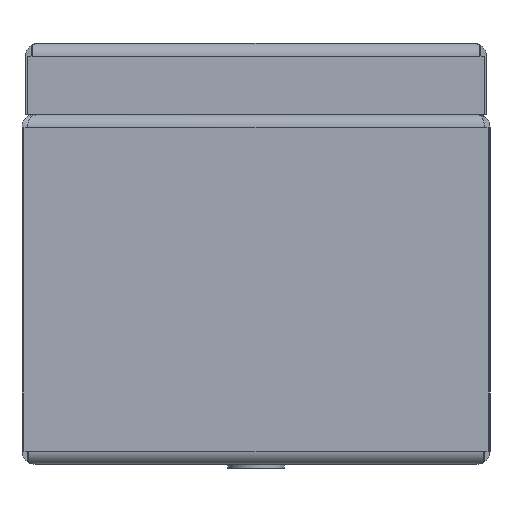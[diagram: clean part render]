
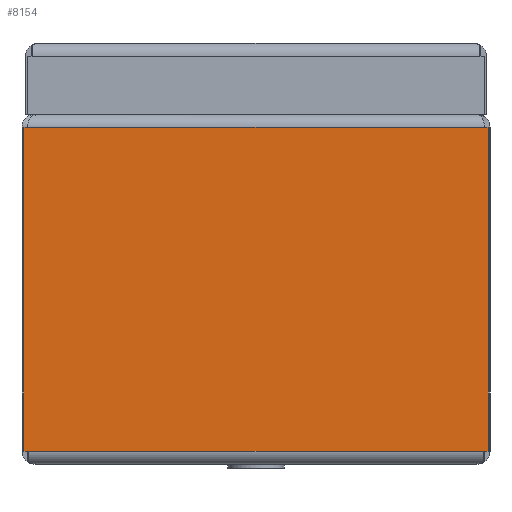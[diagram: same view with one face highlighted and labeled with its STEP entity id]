
A CAD part, left-side view. The second image highlights one B-rep face of the part: STEP entity #8154.
In plain terms, the highlighted planar face has unit normal (-1, 0, 0).
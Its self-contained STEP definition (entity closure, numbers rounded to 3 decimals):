
#192=B_SPLINE_CURVE_WITH_KNOTS('',3,(#13816,#13817,#13818,#13819),
 .UNSPECIFIED.,.F.,.F.,(4,4),(0.002,0.003),
 .UNSPECIFIED.);
#591=LINE('',#13779,#1373);
#597=LINE('',#13790,#1379);
#625=LINE('',#13933,#1407);
#626=LINE('',#13959,#1408);
#630=LINE('',#13977,#1412);
#632=LINE('',#13980,#1414);
#634=LINE('',#13984,#1416);
#1373=VECTOR('',#11257,1000.);
#1379=VECTOR('',#11273,1000.);
#1407=VECTOR('',#11339,1000.);
#1408=VECTOR('',#11342,1000.);
#1412=VECTOR('',#11350,1000.);
#1414=VECTOR('',#11354,1000.);
#1416=VECTOR('',#11360,1000.);
#2504=ORIENTED_EDGE('',*,*,#4616,.F.);
#2505=ORIENTED_EDGE('',*,*,#4565,.F.);
#2506=ORIENTED_EDGE('',*,*,#4559,.F.);
#2507=ORIENTED_EDGE('',*,*,#4614,.F.);
#2508=ORIENTED_EDGE('',*,*,#4612,.F.);
#2509=ORIENTED_EDGE('',*,*,#4606,.T.);
#2510=ORIENTED_EDGE('',*,*,#4604,.T.);
#2511=ORIENTED_EDGE('',*,*,#4571,.F.);
#4559=EDGE_CURVE('',#5663,#5660,#591,.T.);
#4565=EDGE_CURVE('',#5660,#5664,#597,.T.);
#4571=EDGE_CURVE('',#5669,#5666,#192,.F.);
#4604=EDGE_CURVE('',#5686,#5666,#625,.T.);
#4606=EDGE_CURVE('',#5688,#5686,#626,.T.);
#4612=EDGE_CURVE('',#5688,#5690,#630,.T.);
#4614=EDGE_CURVE('',#5690,#5663,#632,.T.);
#4616=EDGE_CURVE('',#5664,#5669,#634,.T.);
#5660=VERTEX_POINT('',#13772);
#5663=VERTEX_POINT('',#13778);
#5664=VERTEX_POINT('',#13791);
#5666=VERTEX_POINT('',#13807);
#5669=VERTEX_POINT('',#13815);
#5686=VERTEX_POINT('',#13924);
#5688=VERTEX_POINT('',#13960);
#5690=VERTEX_POINT('',#13974);
#6639=EDGE_LOOP('',(#2504,#2505,#2506,#2507,#2508,#2509,#2510,#2511));
#7239=FACE_BOUND('',#6639,.T.);
#7795=PLANE('',#10221);
#8154=ADVANCED_FACE('',(#7239),#7795,.T.);
#10221=AXIS2_PLACEMENT_3D('',#13985,#11361,#11362);
#11257=DIRECTION('',(0.,1.,0.));
#11273=DIRECTION('',(0.,1.,0.));
#11339=DIRECTION('',(0.,1.,0.));
#11342=DIRECTION('',(0.,1.,0.));
#11350=DIRECTION('',(0.,0.,-1.));
#11354=DIRECTION('',(0.,1.,0.));
#11360=DIRECTION('',(0.,0.,1.));
#11361=DIRECTION('',(-1.,0.,0.));
#11362=DIRECTION('',(0.,0.,1.));
#13772=CARTESIAN_POINT('',(-150.,48.599,1.6));
#13778=CARTESIAN_POINT('',(-150.,-48.599,1.6));
#13779=CARTESIAN_POINT('',(-150.,-334.6,1.6));
#13790=CARTESIAN_POINT('',(-150.,-334.6,1.6));
#13791=CARTESIAN_POINT('',(-150.,49.604,1.6));
#13807=CARTESIAN_POINT('',(-150.,48.797,70.8));
#13815=CARTESIAN_POINT('',(-150.,49.604,70.8));
#13816=CARTESIAN_POINT('',(-150.,48.797,70.8));
#13817=CARTESIAN_POINT('',(-150.,49.066,70.8));
#13818=CARTESIAN_POINT('',(-150.,49.335,70.8));
#13819=CARTESIAN_POINT('',(-150.,49.604,70.8));
#13924=CARTESIAN_POINT('',(-150.,-48.797,70.8));
#13933=CARTESIAN_POINT('',(-150.,-334.6,70.8));
#13959=CARTESIAN_POINT('',(-150.,-334.6,70.8));
#13960=CARTESIAN_POINT('',(-150.,-49.604,70.8));
#13974=CARTESIAN_POINT('',(-150.,-49.604,1.6));
#13977=CARTESIAN_POINT('',(-150.,-49.604,-1.2));
#13980=CARTESIAN_POINT('',(-150.,-334.6,1.6));
#13984=CARTESIAN_POINT('',(-150.,49.604,-1.2));
#13985=CARTESIAN_POINT('',(-150.,-334.6,-1.2));
